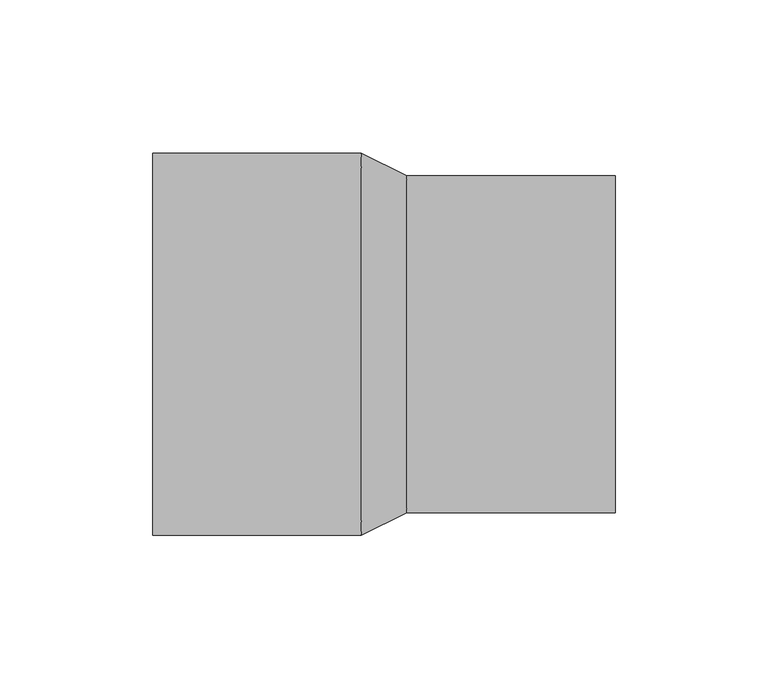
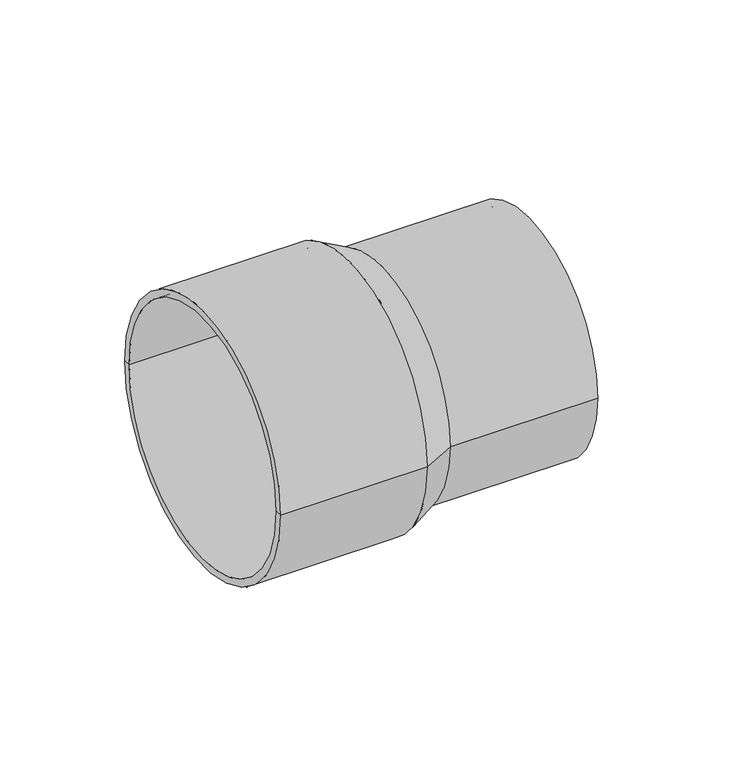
"""IFC4 building model written with IfcOpenShell, lengths in millimetres: pipe fitting geometry, OSMA_KG2000_PPKGUG : Přechodka Litina-KG2000."""

from ifc_helpers import new_model, si_unit, frame, origin, place, context, project, spatial, polyline, circle_curve, source, transform, mapped, element, save
from ifc_brep_helpers import plane_surface, cylinder_surface, revolved_surface, advanced_brep


def pipe_fitting_cb213d63(model_context):
    return source(origin(), model_context, "Body", "AdvancedBrep", [
        advanced_brep(
        [(-7.5, -59.1, 0.0), (-7.5, 59.1, 0.0), (-75.5, 59.1, 0.0), (-75.5, -59.1, 0.0), (7.5, -51.6, 0.0), (7.5, 51.6, 0.0), (75.5, -51.6, 0.0), (75.5, 51.6, 0.0), (75.5, -55.0, 0.0), (75.5, 55.0, 0.0), (7.5, -55.0, 0.0), (7.5, 55.0, 0.0), (-7.5, -62.5, 0.0), (-7.5, 62.5, 0.0), (-75.5, -62.5, 0.0), (-75.5, 62.5, 0.0)],
        [
            (0, 1, circle_curve(frame((-7.5, 0.0, 0.0), z_axis=(1.0, 0.0, 0.0), x_axis=(0.0, 1.0, 0.0)), 59.1)),
            (1, 2),
            (2, 3, circle_curve(frame((-75.5, 0.0, 0.0), z_axis=(-1.0, 0.0, 0.0), x_axis=(0.0, 1.0, 0.0)), 59.1)),
            (3, 0),
            (1, 0, circle_curve(frame((-7.5, 0.0, 0.0), z_axis=(1.0, 0.0, 0.0), x_axis=(0.0, 1.0, 0.0)), 59.1)),
            (3, 2, circle_curve(frame((-75.5, 0.0, 0.0), z_axis=(-1.0, 0.0, 0.0), x_axis=(0.0, 1.0, 0.0)), 59.1)),
            (4, 5, circle_curve(frame((7.5, 0.0, 0.0), z_axis=(1.0, 0.0, 0.0), x_axis=(0.0, 1.0, 0.0)), 51.6)),
            (5, 1),
            (0, 4),
            (5, 4, circle_curve(frame((7.5, 0.0, 0.0), z_axis=(1.0, 0.0, 0.0), x_axis=(0.0, 1.0, 0.0)), 51.6)),
            (6, 7, circle_curve(frame((75.5, 0.0, 0.0), z_axis=(1.0, 0.0, 0.0), x_axis=(0.0, 1.0, 0.0)), 51.6)),
            (7, 5),
            (4, 6),
            (7, 6, circle_curve(frame((75.5, 0.0, 0.0), z_axis=(1.0, 0.0, 0.0), x_axis=(0.0, 1.0, 0.0)), 51.6)),
            (8, 9, circle_curve(frame((75.5, 0.0, 0.0), z_axis=(1.0, 0.0, 0.0), x_axis=(0.0, 1.0, 0.0)), 55.0)),
            (9, 7),
            (6, 8),
            (9, 8, circle_curve(frame((75.5, 0.0, 0.0), z_axis=(1.0, 0.0, 0.0), x_axis=(0.0, 1.0, 0.0)), 55.0)),
            (10, 11, circle_curve(frame((7.5, 0.0, 0.0), z_axis=(1.0, 0.0, 0.0), x_axis=(0.0, 1.0, 0.0)), 55.0)),
            (11, 9),
            (8, 10),
            (11, 10, circle_curve(frame((7.5, 0.0, 0.0), z_axis=(1.0, 0.0, 0.0), x_axis=(0.0, 1.0, 0.0)), 55.0)),
            (12, 13, circle_curve(frame((-7.5, 0.0, 0.0), z_axis=(1.0, 0.0, 0.0), x_axis=(0.0, 1.0, 0.0)), 62.5)),
            (13, 11),
            (10, 12),
            (13, 12, circle_curve(frame((-7.5, 0.0, 0.0), z_axis=(1.0, 0.0, 0.0), x_axis=(0.0, 1.0, 0.0)), 62.5)),
            (14, 15, circle_curve(frame((-75.5, 0.0, 0.0), z_axis=(1.0, 0.0, 0.0), x_axis=(0.0, 1.0, 0.0)), 62.5)),
            (15, 13),
            (12, 14),
            (15, 14, circle_curve(frame((-75.5, 0.0, 0.0), z_axis=(1.0, 0.0, 0.0), x_axis=(0.0, 1.0, 0.0)), 62.5)),
            (2, 15),
            (14, 3),
        ],
        [
            revolved_surface(polyline([(-75.5, 59.1, 0.0), (-7.5, 59.1, 0.0)]), (2000.0, 0.0, 0.0), (-1.0, 0.0, 0.0)),
            revolved_surface(polyline([(-7.5, 59.1, 0.0), (7.5, 51.6, 0.0)]), (2000.0, 0.0, 0.0), (-1.0, 0.0, 0.0)),
            revolved_surface(polyline([(7.5, 51.6, 0.0), (75.5, 51.6, 0.0)]), (2000.0, 0.0, 0.0), (-1.0, 0.0, 0.0)),
            plane_surface(frame((75.5, 0.0, 0.0), z_axis=(1.0, 0.0, 0.0), x_axis=(0.0, 1.0, 0.0))),
            cylinder_surface(frame((2000.0, 0.0, 0.0), z_axis=(-1.0, 0.0, 0.0), x_axis=(0.0, 1.0, 0.0)), 55.0),
            revolved_surface(polyline([(7.5, 55.0, 0.0), (-7.5, 62.5, 0.0)]), (2000.0, 0.0, 0.0), (-1.0, 0.0, 0.0)),
            cylinder_surface(frame((2000.0, 0.0, 0.0), z_axis=(-1.0, 0.0, 0.0), x_axis=(0.0, 1.0, 0.0)), 62.5),
            plane_surface(frame((-75.5, 0.0, 0.0), z_axis=(-1.0, 0.0, 0.0), x_axis=(0.0, 1.0, 0.0))),
        ],
        [
            (0, [[1, 2, 3, 4]]),
            (0, [[5, -4, 6, -2]]),
            (1, [[7, 8, -1, 9]]),
            (1, [[10, -9, -5, -8]]),
            (2, [[11, 12, -7, 13]]),
            (2, [[14, -13, -10, -12]]),
            (3, [[15, 16, -11, 17]]),
            (3, [[18, -17, -14, -16]]),
            (4, [[19, 20, -15, 21]]),
            (4, [[22, -21, -18, -20]]),
            (5, [[23, 24, -19, 25]]),
            (5, [[26, -25, -22, -24]]),
            (6, [[27, 28, -23, 29]]),
            (6, [[30, -29, -26, -28]]),
            (7, [[-3, 31, -27, 32]]),
            (7, [[-6, -32, -30, -31]]),
        ],
    ),
    ])


if __name__ == "__main__":
    model = new_model("IFC4")
    model_context = context("Model", 3, world=origin())
    ifc_project = project(units=[si_unit("LENGTHUNIT", "METRE", prefix="MILLI")], contexts=[model_context])
    site = spatial("IfcSite", under=ifc_project)
    building = spatial("IfcBuilding", under=site)
    placement = place(None, origin())
    pipe_fitting_shape = pipe_fitting_cb213d63(model_context)
    element("IfcPipeFitting", 1, ObjectType="OSMA_KG2000_PPKGUG : Přechodka Litina-KG2000", at=placement, inside=building, context=model_context, shape_type="MappedRepresentation", body=[
        mapped(pipe_fitting_shape, transform((0.0, 0.0, 0.0), x_axis=(1.0, 0.0, 0.0), y_axis=(0.0, 1.0, 0.0), z_axis=(0.0, 0.0, 1.0))),
    ])
    save(model, "model.ifc")
